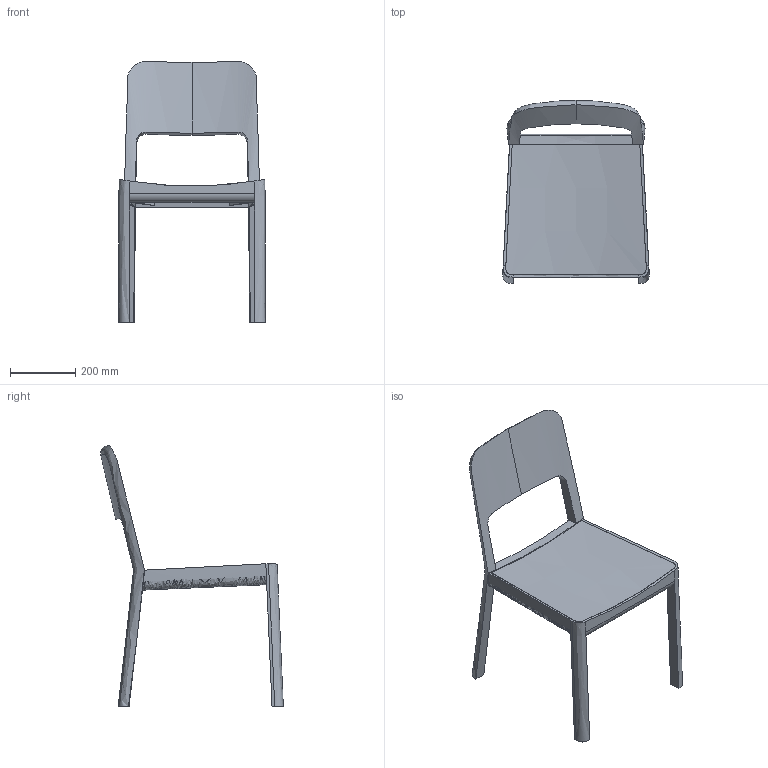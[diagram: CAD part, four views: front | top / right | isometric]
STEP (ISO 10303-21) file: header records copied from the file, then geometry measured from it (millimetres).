
FILE_DESCRIPTION(/* description */ (''),/* implementation_level */ '2;1');
FILE_NAME(/* name */ 'kinoshita_coccole_c101',/* time_stamp */ '2024-07-03T14:36:37+09:00',/* author */ (''),/* organization */ (''),/* preprocessor_version */ 'ST-DEVELOPER v16.5',/* originating_system */ '',/* authorisation */ '');
FILE_SCHEMA (('AUTOMOTIVE_DESIGN'));
Length unit declared in the file: millimetre
Products named in the file (1): Document
Bounding box: 450.68 x 561.96 x 803.03 mm (x, y, z)
Volume: 1992284.1 mm3; surface area: 1056034.8 mm2
Topology: 1 solids, 2 shells, 96 faces, 273 edges, 171 vertices
Faces by surface type: bspline 74, plane 22
Entity records: 9577 total; most frequent: CARTESIAN_POINT 7888, ORIENTED_EDGE 530, EDGE_CURVE 273, B_SPLINE_CURVE_WITH_KNOTS 255, VERTEX_POINT 171, EDGE_LOOP 104, ADVANCED_FACE 96, FACE_OUTER_BOUND 96
